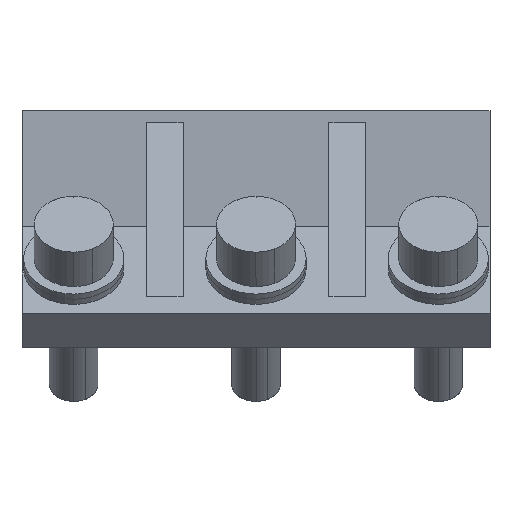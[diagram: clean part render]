
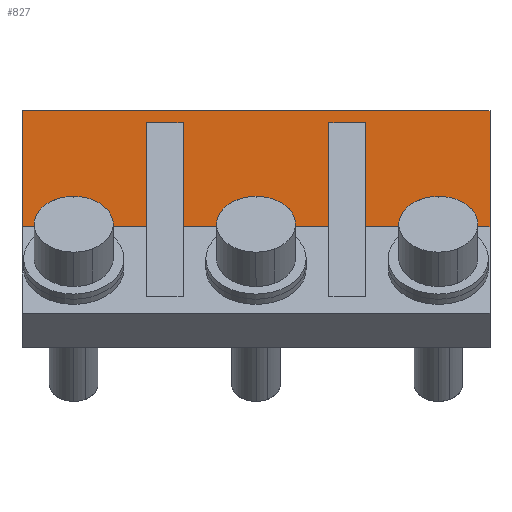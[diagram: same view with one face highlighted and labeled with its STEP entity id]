
A CAD part, front view. The second image highlights one B-rep face of the part: STEP entity #827.
In plain terms, the highlighted planar face has unit normal (0, -1, 0).
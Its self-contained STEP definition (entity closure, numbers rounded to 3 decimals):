
#827=ADVANCED_FACE('Solid.49',(#1927),#1928,.F.);
#1927=FACE_OUTER_BOUND('',#3446,.T.);
#1928=PLANE('',#3447);
#3446=EDGE_LOOP('',(#5485,#5486,#5487,#5488,#5489,#5490,#5491,#5492,#5493,#5494,#5495,#5496));
#3447=AXIS2_PLACEMENT_3D('',#5497,#5498,#5499);
#5485=ORIENTED_EDGE('',*,*,#8932,.F.);
#5486=ORIENTED_EDGE('',*,*,#8933,.T.);
#5487=ORIENTED_EDGE('',*,*,#8934,.T.);
#5488=ORIENTED_EDGE('',*,*,#8935,.F.);
#5489=ORIENTED_EDGE('',*,*,#8936,.F.);
#5490=ORIENTED_EDGE('',*,*,#8807,.F.);
#5491=ORIENTED_EDGE('',*,*,#8839,.T.);
#5492=ORIENTED_EDGE('',*,*,#8829,.T.);
#5493=ORIENTED_EDGE('',*,*,#8937,.F.);
#5494=ORIENTED_EDGE('',*,*,#8938,.T.);
#5495=ORIENTED_EDGE('',*,*,#8939,.T.);
#5496=ORIENTED_EDGE('',*,*,#8940,.F.);
#5497=CARTESIAN_POINT('',(0.0,-27.0,60.0));
#5498=DIRECTION('',(0.0,1.0,0.0));
#5499=DIRECTION('',(0.0,0.0,-1.0));
#8807=EDGE_CURVE('',#10545,#10547,#10548,.T.);
#8829=EDGE_CURVE('',#10588,#10586,#10589,.T.);
#8839=EDGE_CURVE('',#10545,#10588,#10600,.T.);
#8932=EDGE_CURVE('',#10734,#10735,#10736,.T.);
#8933=EDGE_CURVE('',#10734,#10737,#10738,.F.);
#8934=EDGE_CURVE('',#10737,#10739,#10740,.T.);
#8935=EDGE_CURVE('',#10741,#10739,#10742,.F.);
#8936=EDGE_CURVE('',#10547,#10741,#10743,.T.);
#8937=EDGE_CURVE('',#10744,#10586,#10745,.T.);
#8938=EDGE_CURVE('',#10744,#10746,#10747,.F.);
#8939=EDGE_CURVE('',#10746,#10748,#10749,.T.);
#8940=EDGE_CURVE('',#10735,#10748,#10750,.F.);
#10545=VERTEX_POINT('',#13010);
#10547=VERTEX_POINT('',#13013);
#10548=LINE('',#13014,#13015);
#10586=VERTEX_POINT('',#13073);
#10588=VERTEX_POINT('',#13076);
#10589=LINE('',#13077,#13078);
#10600=LINE('',#13097,#13098);
#10734=VERTEX_POINT('',#13258);
#10735=VERTEX_POINT('',#13259);
#10736=LINE('',#13260,#13261);
#10737=VERTEX_POINT('',#13262);
#10738=LINE('',#13263,#13264);
#10739=VERTEX_POINT('',#13265);
#10740=LINE('',#13266,#13267);
#10741=VERTEX_POINT('',#13268);
#10742=LINE('',#13269,#13270);
#10743=LINE('',#13271,#13272);
#10744=VERTEX_POINT('',#13273);
#10745=LINE('',#13274,#13275);
#10746=VERTEX_POINT('',#13276);
#10747=LINE('',#13277,#13278);
#10748=VERTEX_POINT('',#13279);
#10749=LINE('',#13280,#13281);
#10750=LINE('',#13282,#13283);
#13010=CARTESIAN_POINT('',(31.0,-27.0,60.0));
#13013=CARTESIAN_POINT('',(31.0,-27.0,40.882));
#13014=CARTESIAN_POINT('',(31.0,-27.0,50.441));
#13015=VECTOR('',#16167,1.0);
#13073=CARTESIAN_POINT('',(-46.0,-27.0,40.882));
#13076=CARTESIAN_POINT('',(-46.0,-27.0,60.0));
#13077=CARTESIAN_POINT('',(-46.0,-27.0,50.441));
#13078=VECTOR('',#16188,1.0);
#13097=CARTESIAN_POINT('',(-7.5,-27.0,60.0));
#13098=VECTOR('',#16193,1.0);
#13258=CARTESIAN_POINT('',(4.5,-27.0,40.882));
#13259=CARTESIAN_POINT('',(-19.5,-27.0,40.882));
#13260=CARTESIAN_POINT('',(-7.5,-27.0,40.882));
#13261=VECTOR('',#16406,1.0);
#13262=CARTESIAN_POINT('',(4.5,-27.0,58.0));
#13263=CARTESIAN_POINT('',(4.5,-27.0,49.441));
#13264=VECTOR('',#16407,1.0);
#13265=CARTESIAN_POINT('',(10.5,-27.0,58.0));
#13266=CARTESIAN_POINT('',(7.5,-27.0,58.0));
#13267=VECTOR('',#16408,1.0);
#13268=CARTESIAN_POINT('',(10.5,-27.0,40.882));
#13269=CARTESIAN_POINT('',(10.5,-27.0,49.441));
#13270=VECTOR('',#16409,1.0);
#13271=CARTESIAN_POINT('',(20.75,-27.0,40.882));
#13272=VECTOR('',#16410,1.0);
#13273=CARTESIAN_POINT('',(-25.5,-27.0,40.882));
#13274=CARTESIAN_POINT('',(-35.75,-27.0,40.882));
#13275=VECTOR('',#16411,1.0);
#13276=CARTESIAN_POINT('',(-25.5,-27.0,58.0));
#13277=CARTESIAN_POINT('',(-25.5,-27.0,49.441));
#13278=VECTOR('',#16412,1.0);
#13279=CARTESIAN_POINT('',(-19.5,-27.0,58.0));
#13280=CARTESIAN_POINT('',(-22.5,-27.0,58.0));
#13281=VECTOR('',#16413,1.0);
#13282=CARTESIAN_POINT('',(-19.5,-27.0,49.441));
#13283=VECTOR('',#16414,1.0);
#16167=DIRECTION('',(0.0,0.0,-1.0));
#16188=DIRECTION('',(0.0,0.0,-1.0));
#16193=DIRECTION('',(-1.0,0.0,0.0));
#16406=DIRECTION('',(-1.0,0.0,0.0));
#16407=DIRECTION('',(0.0,0.0,-1.0));
#16408=DIRECTION('',(1.0,0.0,0.0));
#16409=DIRECTION('',(0.0,0.0,-1.0));
#16410=DIRECTION('',(-1.0,0.0,0.0));
#16411=DIRECTION('',(-1.0,0.0,0.0));
#16412=DIRECTION('',(0.0,0.0,-1.0));
#16413=DIRECTION('',(1.0,0.0,0.0));
#16414=DIRECTION('',(0.0,0.0,-1.0));
